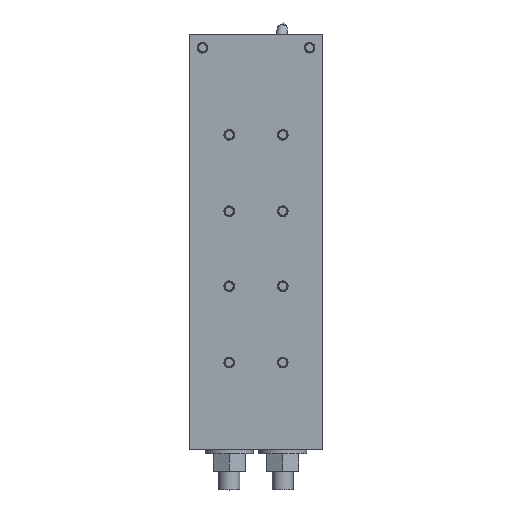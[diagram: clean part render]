
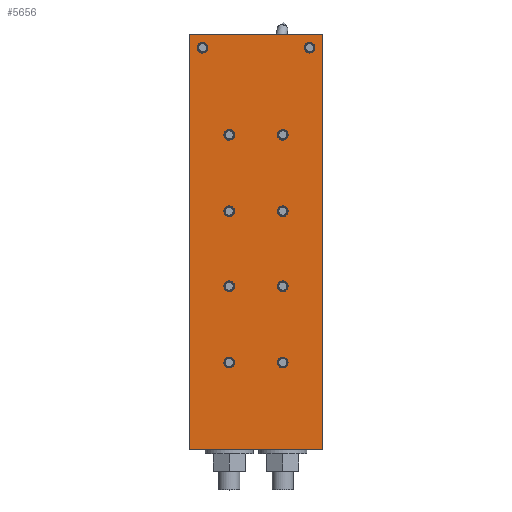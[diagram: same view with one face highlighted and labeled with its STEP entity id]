
A CAD part, top view. The second image highlights one B-rep face of the part: STEP entity #5656.
In plain terms, the highlighted planar face has unit normal (0, 0, 1) as drawn and (0, -1, 0) by its records, which use the part's own axes.
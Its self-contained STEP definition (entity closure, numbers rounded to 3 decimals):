
#549=CIRCLE('',#6740,3.324);
#550=CIRCLE('',#6741,3.324);
#551=CIRCLE('',#6742,3.324);
#552=CIRCLE('',#6743,3.324);
#553=CIRCLE('',#6744,3.324);
#554=CIRCLE('',#6745,3.324);
#555=CIRCLE('',#6746,3.324);
#556=CIRCLE('',#6747,3.324);
#557=CIRCLE('',#6748,3.324);
#558=CIRCLE('',#6749,3.324);
#1813=ORIENTED_EDGE('',*,*,#2541,.F.);
#1814=ORIENTED_EDGE('',*,*,#2542,.F.);
#1815=ORIENTED_EDGE('',*,*,#2543,.F.);
#1816=ORIENTED_EDGE('',*,*,#2544,.F.);
#1817=ORIENTED_EDGE('',*,*,#2545,.F.);
#1818=ORIENTED_EDGE('',*,*,#2546,.F.);
#1819=ORIENTED_EDGE('',*,*,#2547,.F.);
#1820=ORIENTED_EDGE('',*,*,#2548,.F.);
#1821=ORIENTED_EDGE('',*,*,#2549,.F.);
#1822=ORIENTED_EDGE('',*,*,#2550,.F.);
#1823=ORIENTED_EDGE('',*,*,#2529,.T.);
#1824=ORIENTED_EDGE('',*,*,#2533,.T.);
#1825=ORIENTED_EDGE('',*,*,#2536,.T.);
#1826=ORIENTED_EDGE('',*,*,#2539,.T.);
#2529=EDGE_CURVE('',#3059,#3060,#3481,.T.);
#2533=EDGE_CURVE('',#3060,#3063,#3485,.T.);
#2536=EDGE_CURVE('',#3063,#3065,#3488,.T.);
#2539=EDGE_CURVE('',#3065,#3059,#3491,.T.);
#2541=EDGE_CURVE('',#3067,#3067,#549,.T.);
#2542=EDGE_CURVE('',#3068,#3068,#550,.T.);
#2543=EDGE_CURVE('',#3069,#3069,#551,.T.);
#2544=EDGE_CURVE('',#3070,#3070,#552,.T.);
#2545=EDGE_CURVE('',#3071,#3071,#553,.T.);
#2546=EDGE_CURVE('',#3072,#3072,#554,.T.);
#2547=EDGE_CURVE('',#3073,#3073,#555,.T.);
#2548=EDGE_CURVE('',#3074,#3074,#556,.T.);
#2549=EDGE_CURVE('',#3075,#3075,#557,.T.);
#2550=EDGE_CURVE('',#3076,#3076,#558,.T.);
#3059=VERTEX_POINT('',#9855);
#3060=VERTEX_POINT('',#9856);
#3063=VERTEX_POINT('',#9864);
#3065=VERTEX_POINT('',#9870);
#3067=VERTEX_POINT('',#9880);
#3068=VERTEX_POINT('',#9882);
#3069=VERTEX_POINT('',#9884);
#3070=VERTEX_POINT('',#9886);
#3071=VERTEX_POINT('',#9888);
#3072=VERTEX_POINT('',#9890);
#3073=VERTEX_POINT('',#9892);
#3074=VERTEX_POINT('',#9894);
#3075=VERTEX_POINT('',#9896);
#3076=VERTEX_POINT('',#9898);
#3481=LINE('',#9854,#3901);
#3485=LINE('',#9863,#3905);
#3488=LINE('',#9869,#3908);
#3491=LINE('',#9875,#3911);
#3901=VECTOR('',#8287,1000.);
#3905=VECTOR('',#8293,1000.);
#3908=VECTOR('',#8298,1000.);
#3911=VECTOR('',#8303,1000.);
#4500=EDGE_LOOP('',(#1813));
#4501=EDGE_LOOP('',(#1814));
#4502=EDGE_LOOP('',(#1815));
#4503=EDGE_LOOP('',(#1816));
#4504=EDGE_LOOP('',(#1817));
#4505=EDGE_LOOP('',(#1818));
#4506=EDGE_LOOP('',(#1819));
#4507=EDGE_LOOP('',(#1820));
#4508=EDGE_LOOP('',(#1821));
#4509=EDGE_LOOP('',(#1822));
#4510=EDGE_LOOP('',(#1823,#1824,#1825,#1826));
#5116=FACE_BOUND('',#4500,.T.);
#5117=FACE_BOUND('',#4501,.T.);
#5118=FACE_BOUND('',#4502,.T.);
#5119=FACE_BOUND('',#4503,.T.);
#5120=FACE_BOUND('',#4504,.T.);
#5121=FACE_BOUND('',#4505,.T.);
#5122=FACE_BOUND('',#4506,.T.);
#5123=FACE_BOUND('',#4507,.T.);
#5124=FACE_BOUND('',#4508,.T.);
#5125=FACE_BOUND('',#4509,.T.);
#5126=FACE_BOUND('',#4510,.T.);
#5331=PLANE('',#6739);
#5656=ADVANCED_FACE('',(#5116,#5117,#5118,#5119,#5120,#5121,#5122,#5123,
#5124,#5125,#5126),#5331,.T.);
#6739=AXIS2_PLACEMENT_3D('',#9878,#8307,#8308);
#6740=AXIS2_PLACEMENT_3D('',#9879,#8309,#8310);
#6741=AXIS2_PLACEMENT_3D('',#9881,#8311,#8312);
#6742=AXIS2_PLACEMENT_3D('',#9883,#8313,#8314);
#6743=AXIS2_PLACEMENT_3D('',#9885,#8315,#8316);
#6744=AXIS2_PLACEMENT_3D('',#9887,#8317,#8318);
#6745=AXIS2_PLACEMENT_3D('',#9889,#8319,#8320);
#6746=AXIS2_PLACEMENT_3D('',#9891,#8321,#8322);
#6747=AXIS2_PLACEMENT_3D('',#9893,#8323,#8324);
#6748=AXIS2_PLACEMENT_3D('',#9895,#8325,#8326);
#6749=AXIS2_PLACEMENT_3D('',#9897,#8327,#8328);
#8287=DIRECTION('',(1.,0.,0.));
#8293=DIRECTION('',(0.,0.,1.));
#8298=DIRECTION('',(-1.,0.,0.));
#8303=DIRECTION('',(0.,0.,-1.));
#8307=DIRECTION('',(0.,-1.,0.));
#8308=DIRECTION('',(0.,0.,-1.));
#8309=DIRECTION('',(0.,-1.,0.));
#8310=DIRECTION('',(1.,0.,0.));
#8311=DIRECTION('',(0.,-1.,0.));
#8312=DIRECTION('',(1.,0.,0.));
#8313=DIRECTION('',(0.,-1.,0.));
#8314=DIRECTION('',(1.,0.,0.));
#8315=DIRECTION('',(0.,-1.,0.));
#8316=DIRECTION('',(1.,0.,0.));
#8317=DIRECTION('',(0.,-1.,0.));
#8318=DIRECTION('',(1.,0.,0.));
#8319=DIRECTION('',(0.,-1.,0.));
#8320=DIRECTION('',(1.,0.,0.));
#8321=DIRECTION('',(0.,-1.,0.));
#8322=DIRECTION('',(1.,0.,0.));
#8323=DIRECTION('',(0.,-1.,0.));
#8324=DIRECTION('',(1.,0.,0.));
#8325=DIRECTION('',(0.,-1.,0.));
#8326=DIRECTION('',(1.,0.,0.));
#8327=DIRECTION('',(0.,-1.,0.));
#8328=DIRECTION('',(1.,0.,0.));
#9854=CARTESIAN_POINT('',(-50.,0.,-155.));
#9855=CARTESIAN_POINT('',(-50.,0.,-155.));
#9856=CARTESIAN_POINT('',(50.,0.,-155.));
#9863=CARTESIAN_POINT('',(50.,0.,-155.));
#9864=CARTESIAN_POINT('',(50.,0.,155.));
#9869=CARTESIAN_POINT('',(50.,0.,155.));
#9870=CARTESIAN_POINT('',(-50.,0.,155.));
#9875=CARTESIAN_POINT('',(-50.,0.,155.));
#9878=CARTESIAN_POINT('',(0.,0.,0.));
#9879=CARTESIAN_POINT('',(40.,0.,-145.));
#9880=CARTESIAN_POINT('',(43.324,0.,-145.));
#9881=CARTESIAN_POINT('',(-40.,0.,-145.));
#9882=CARTESIAN_POINT('',(-36.677,0.,-145.));
#9883=CARTESIAN_POINT('',(-20.,0.,-80.));
#9884=CARTESIAN_POINT('',(-16.677,0.,-80.));
#9885=CARTESIAN_POINT('',(-20.,0.,-23.));
#9886=CARTESIAN_POINT('',(-16.677,0.,-23.));
#9887=CARTESIAN_POINT('',(-20.,0.,33.));
#9888=CARTESIAN_POINT('',(-16.677,0.,33.));
#9889=CARTESIAN_POINT('',(-20.,0.,90.));
#9890=CARTESIAN_POINT('',(-16.677,0.,90.));
#9891=CARTESIAN_POINT('',(20.,0.,90.));
#9892=CARTESIAN_POINT('',(23.324,0.,90.));
#9893=CARTESIAN_POINT('',(20.,0.,33.));
#9894=CARTESIAN_POINT('',(23.324,0.,33.));
#9895=CARTESIAN_POINT('',(20.,0.,-23.));
#9896=CARTESIAN_POINT('',(23.324,0.,-23.));
#9897=CARTESIAN_POINT('',(20.,0.,-80.));
#9898=CARTESIAN_POINT('',(23.324,0.,-80.));
